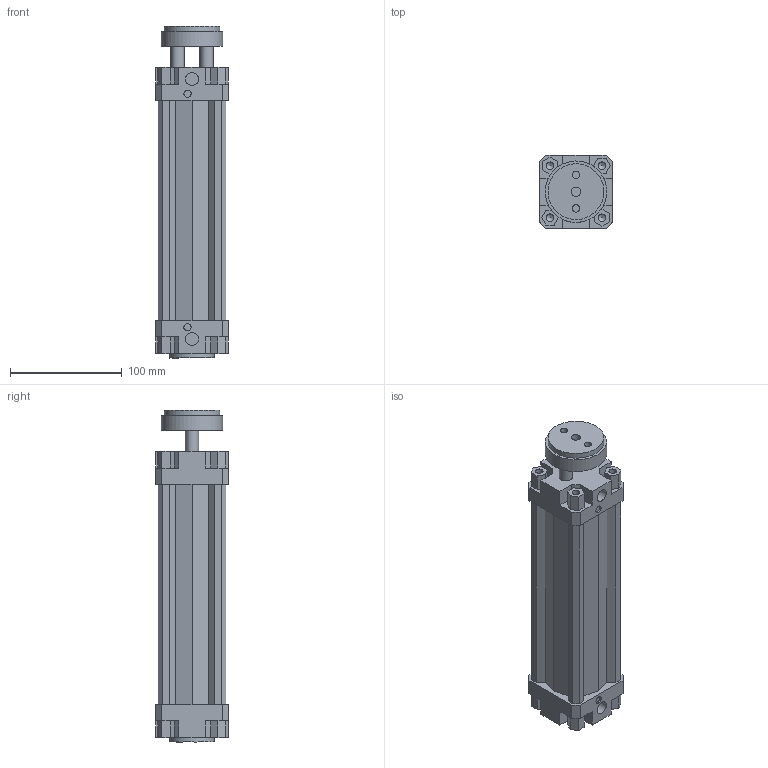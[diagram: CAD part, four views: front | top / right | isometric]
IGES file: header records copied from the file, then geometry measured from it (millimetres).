
Global section: file name: 132#_050_0150_01; native system: Autodesk Inventor 2014; preprocessor: unknown; author: A. Manieri; date: 20161006.155725; units: millimetre
Bounding box: 65 x 65 x 297 mm (x, y, z)
Volume: 597567.6 mm3; surface area: 157095.3 mm2
Topology: 2 solids, 2 shells, 180 faces, 492 edges, 336 vertices
Faces by surface type: bspline 180
